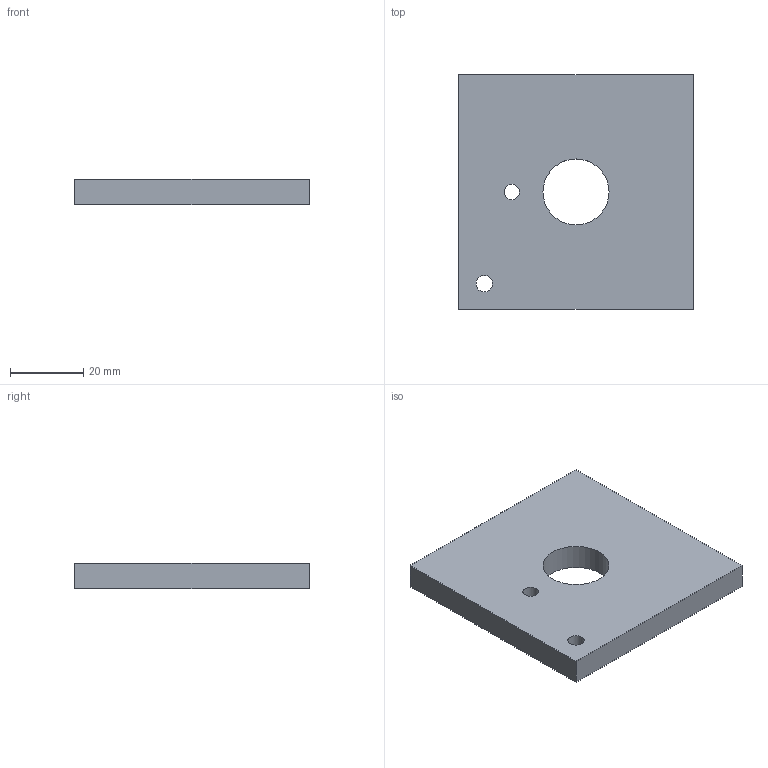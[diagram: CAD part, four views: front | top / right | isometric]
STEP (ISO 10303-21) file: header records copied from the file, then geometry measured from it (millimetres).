
FILE_DESCRIPTION(('Open CASCADE Model'),'2;1');
FILE_NAME('Open CASCADE Shape Model','2026-09-10T23:36:52',('Author'),( 'Open CASCADE'),'Open CASCADE STEP processor 7.9','Open CASCADE 7.9' ,'Unknown');
FILE_SCHEMA(('AUTOMOTIVE_DESIGN { 1 0 10303 214 1 1 1 1 }'));
Length unit declared in the file: millimetre
Products named in the file (1): Open CASCADE STEP translator 7.9 4
Bounding box: 64 x 64 x 7 mm (x, y, z)
Volume: 26682.4 mm3; surface area: 10002.7 mm2
Topology: 1 solids, 1 shells, 9 faces, 21 edges, 14 vertices
Faces by surface type: plane 6, cylinder 3
Full cylindrical faces by diameter (mm): 4.2 x1, 4.5 x1, 18 x1
Entity records: 574 total; most frequent: CARTESIAN_POINT 123, DIRECTION 83, LINE 51, VECTOR 51, ORIENTED_EDGE 42, PCURVE 42, DEFINITIONAL_REPRESENTATION 42, EDGE_CURVE 21
